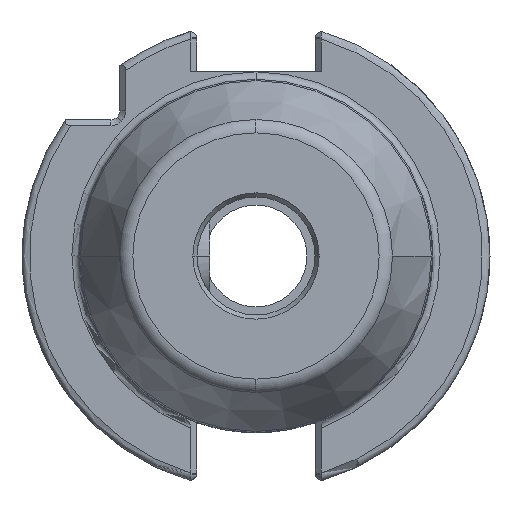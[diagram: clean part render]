
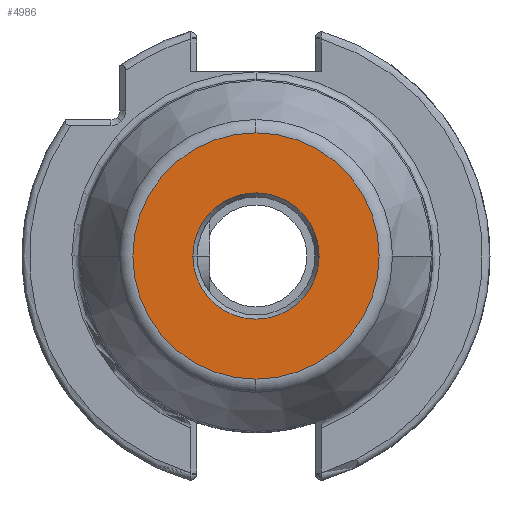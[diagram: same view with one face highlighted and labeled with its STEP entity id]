
A CAD part, front view. The second image highlights one B-rep face of the part: STEP entity #4986.
In plain terms, the highlighted planar face has unit normal (0, -1, 0).
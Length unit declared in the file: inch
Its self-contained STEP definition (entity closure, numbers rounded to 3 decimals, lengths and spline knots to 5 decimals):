
#57 = EDGE_CURVE ( 'NONE', #3606, #7567, #251, .T. ) ;
#251 = CIRCLE ( 'NONE', #6578, 0.6585 ) ;
#524 = CARTESIAN_POINT ( 'NONE',  ( 0., -2.48031, -0.6585 ) ) ;
#1437 = AXIS2_PLACEMENT_3D ( 'NONE', #8906, #3677, #7996 ) ;
#1863 = ORIENTED_EDGE ( 'NONE', *, *, #57, .F. ) ;
#1938 = FACE_BOUND ( 'NONE', #7626, .T. ) ;
#1959 = DIRECTION ( 'NONE',  ( 0., -1., 0. ) ) ;
#2974 = DIRECTION ( 'NONE',  ( -1., 0., 0. ) ) ;
#3304 = CARTESIAN_POINT ( 'NONE',  ( 0., -2.48031, 0. ) ) ;
#3437 = AXIS2_PLACEMENT_3D ( 'NONE', #8072, #1959, #6476 ) ;
#3606 = VERTEX_POINT ( 'NONE', #9182 ) ;
#3677 = DIRECTION ( 'NONE',  ( 0., -1., 0. ) ) ;
#4288 = VERTEX_POINT ( 'NONE', #5339 ) ;
#4640 = ORIENTED_EDGE ( 'NONE', *, *, #9738, .F. ) ;
#4986 = ADVANCED_FACE ( 'NONE', ( #1938, #5497 ), #7930, .T. ) ;
#5339 = CARTESIAN_POINT ( 'NONE',  ( -0.33769, -2.48031, 0. ) ) ;
#5497 = FACE_OUTER_BOUND ( 'NONE', #8646, .T. ) ;
#5617 = CIRCLE ( 'NONE', #3437, 0.33769 ) ;
#5958 = CIRCLE ( 'NONE', #7428, 0.6585 ) ;
#6136 = AXIS2_PLACEMENT_3D ( 'NONE', #8392, #8233, #10947 ) ;
#6476 = DIRECTION ( 'NONE',  ( -1., 0., 0. ) ) ;
#6578 = AXIS2_PLACEMENT_3D ( 'NONE', #3304, #7497, #10056 ) ;
#7428 = AXIS2_PLACEMENT_3D ( 'NONE', #9956, #9110, #2974 ) ;
#7497 = DIRECTION ( 'NONE',  ( 0., 1., 0. ) ) ;
#7567 = VERTEX_POINT ( 'NONE', #524 ) ;
#7626 = EDGE_LOOP ( 'NONE', ( #9551, #8548 ) ) ;
#7907 = VERTEX_POINT ( 'NONE', #8036 ) ;
#7930 = PLANE ( 'NONE',  #1437 ) ;
#7996 = DIRECTION ( 'NONE',  ( 0., 0., -1. ) ) ;
#8036 = CARTESIAN_POINT ( 'NONE',  ( 0.33769, -2.48031, 0. ) ) ;
#8072 = CARTESIAN_POINT ( 'NONE',  ( 0., -2.48031, 0. ) ) ;
#8233 = DIRECTION ( 'NONE',  ( 0., -1., 0. ) ) ;
#8392 = CARTESIAN_POINT ( 'NONE',  ( 0., -2.48031, 0. ) ) ;
#8548 = ORIENTED_EDGE ( 'NONE', *, *, #9991, .F. ) ;
#8646 = EDGE_LOOP ( 'NONE', ( #4640, #1863 ) ) ;
#8906 = CARTESIAN_POINT ( 'NONE',  ( 0., -2.48031, 0. ) ) ;
#9110 = DIRECTION ( 'NONE',  ( 0., 1., 0. ) ) ;
#9182 = CARTESIAN_POINT ( 'NONE',  ( 0., -2.48031, 0.6585 ) ) ;
#9551 = ORIENTED_EDGE ( 'NONE', *, *, #9715, .F. ) ;
#9715 = EDGE_CURVE ( 'NONE', #4288, #7907, #5617, .T. ) ;
#9738 = EDGE_CURVE ( 'NONE', #7567, #3606, #5958, .T. ) ;
#9796 = CIRCLE ( 'NONE', #6136, 0.33769 ) ;
#9956 = CARTESIAN_POINT ( 'NONE',  ( 0., -2.48031, 0. ) ) ;
#9991 = EDGE_CURVE ( 'NONE', #7907, #4288, #9796, .T. ) ;
#10056 = DIRECTION ( 'NONE',  ( -1., 0., 0. ) ) ;
#10947 = DIRECTION ( 'NONE',  ( -1., 0., 0. ) ) ;
